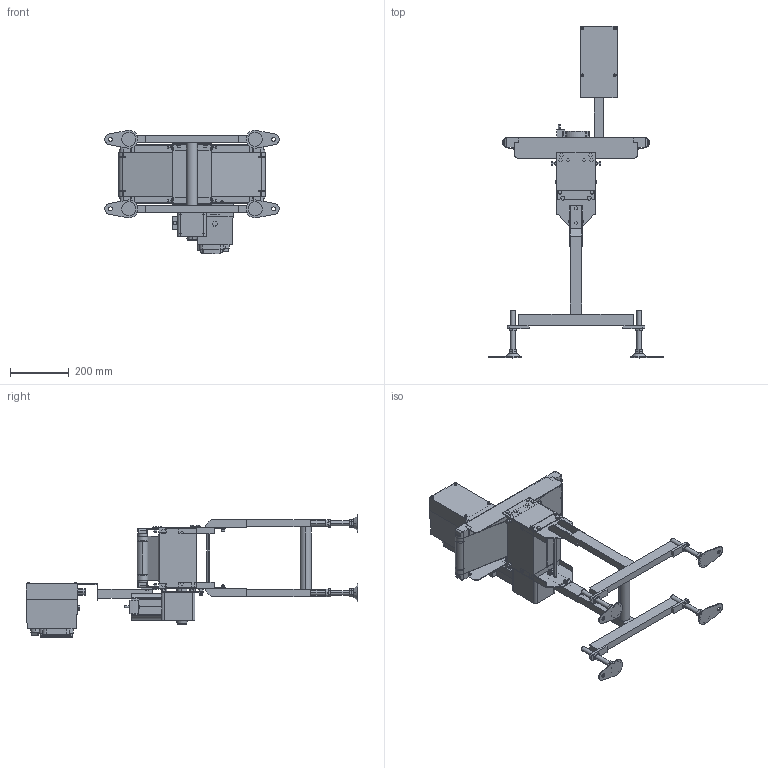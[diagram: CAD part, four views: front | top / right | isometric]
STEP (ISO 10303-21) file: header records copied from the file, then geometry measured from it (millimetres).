
FILE_DESCRIPTION (( 'STEP AP214' ), '1' );
FILE_NAME ('FSDHS-150-500-R.STEP', '2023-04-20T09:17:16', ( '' ), ( '' ), 'SwSTEP 2.0', 'SolidWorks 2017', '' );
FILE_SCHEMA (( 'AUTOMOTIVE_DESIGN' ));
Length unit declared in the file: millimetre
Products named in the file (1): FSDHS-150-500-R
Bounding box: 594 x 1131 x 419.99 mm (x, y, z)
Volume: 12248206.5 mm3; surface area: 1964048.1 mm2
Topology: 46 solids, 48 shells, 1758 faces, 4365 edges, 2866 vertices
Faces by surface type: plane 1175, cylinder 540, cone 29, bspline 14
Entity records: 73980 total; most frequent: CARTESIAN_POINT 11192, DIRECTION 8967, ORIENTED_EDGE 8726, EDGE_CURVE 4363, LINE 3103, VECTOR 3103, AXIS2_PLACEMENT_3D 2932, VERTEX_POINT 2866
